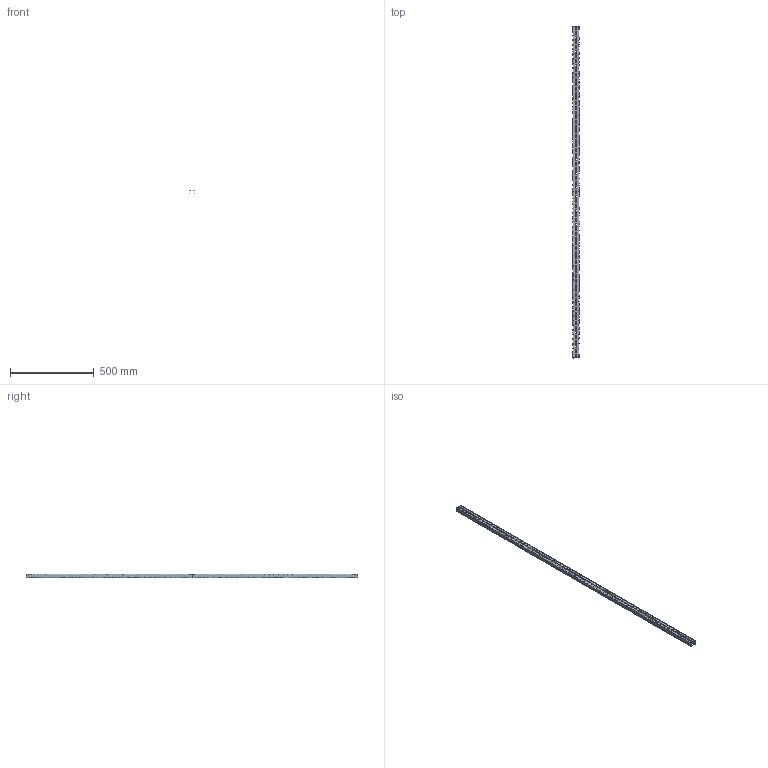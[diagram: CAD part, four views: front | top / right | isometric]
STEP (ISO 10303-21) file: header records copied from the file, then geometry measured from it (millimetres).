
FILE_DESCRIPTION(/* description */ (''),/* implementation_level */ '2;1');
FILE_NAME(/* name */ 'STNM',/* time_stamp */ '2012-11-29T22:59:20+01:00',/* author */ (''),/* organization */ (''),/* preprocessor_version */ 'ST-DEVELOPER v10',/* originating_system */ '',/* authorisation */ '');
FILE_SCHEMA (('AUTOMOTIVE_DESIGN_CC2'));
Length unit declared in the file: millimetre
Products named in the file (1): 1
Bounding box: 40 x 1988 x 22 mm (x, y, z)
Surface area: 378355.1 mm2 (no closed solid volume)
Topology: 0 solids, 82 shells, 152 faces, 616 edges, 476 vertices
Faces by surface type: bspline 150, plane 2
Entity records: 12638 total; most frequent: CARTESIAN_POINT 9040, ORIENTED_EDGE 756, EDGE_CURVE 616, VERTEX_POINT 476, EDGE_LOOP 292, B_SPLINE_CURVE_WITH_KNOTS 164, ADVANCED_FACE 152, FACE_OUTER_BOUND 152
